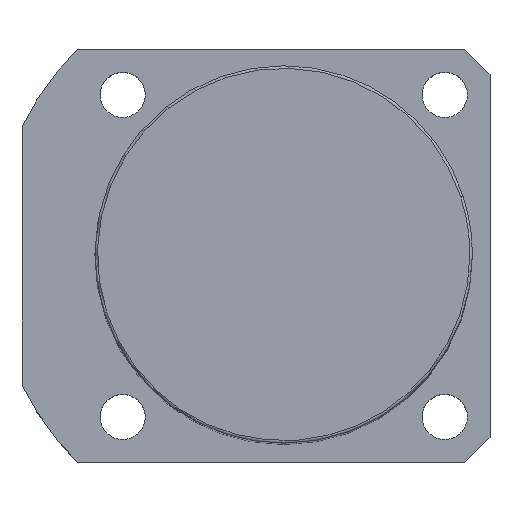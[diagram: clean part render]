
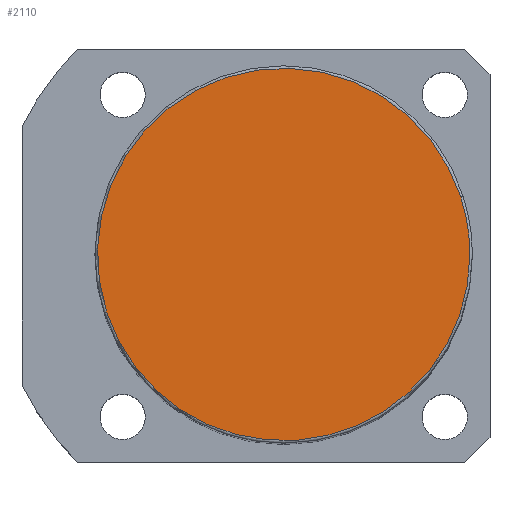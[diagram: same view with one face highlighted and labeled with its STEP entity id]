
A CAD part, top view. The second image highlights one B-rep face of the part: STEP entity #2110.
In plain terms, the highlighted planar face has unit normal (0, 0, 1).
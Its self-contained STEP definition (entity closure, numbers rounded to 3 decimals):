
#2076=CARTESIAN_POINT('',(37.0,0.0,173.0));
#2077=VERTEX_POINT('',#2076);
#2078=CARTESIAN_POINT('',(35.189,11.434,173.0));
#2079=VERTEX_POINT('',#2078);
#2080=CARTESIAN_POINT('',(0.0,0.0,173.0));
#2081=DIRECTION('',(0.0,0.0,1.0));
#2082=DIRECTION('',(1.0,0.0,0.0));
#2083=AXIS2_PLACEMENT_3D('',#2080,#2081,#2082);
#2084=CIRCLE('',#2083,37.0);
#2085=EDGE_CURVE('no 1964',#2077,#2079,#2084,.T.);
#2086=ORIENTED_EDGE('',*,*,#2085,.T.);
#2087=CARTESIAN_POINT('',(-35.189,-11.434,173.0));
#2088=VERTEX_POINT('',#2087);
#2089=CARTESIAN_POINT('',(0.0,0.0,173.0));
#2090=DIRECTION('',(0.0,0.0,1.0));
#2091=DIRECTION('',(1.0,0.0,0.0));
#2092=AXIS2_PLACEMENT_3D('',#2089,#2090,#2091);
#2093=CIRCLE('',#2092,37.0);
#2094=EDGE_CURVE('no 1970',#2079,#2088,#2093,.T.);
#2095=ORIENTED_EDGE('',*,*,#2094,.T.);
#2096=CARTESIAN_POINT('',(0.0,0.0,173.0));
#2097=DIRECTION('',(0.0,0.0,1.0));
#2098=DIRECTION('',(1.0,0.0,0.0));
#2099=AXIS2_PLACEMENT_3D('',#2096,#2097,#2098);
#2100=CIRCLE('',#2099,37.0);
#2101=EDGE_CURVE('no 1974',#2088,#2077,#2100,.T.);
#2102=ORIENTED_EDGE('',*,*,#2101,.T.);
#2103=EDGE_LOOP('',(#2086,#2095,#2102));
#2104=FACE_OUTER_BOUND('',#2103,.T.);
#2105=CARTESIAN_POINT('',(0.0,0.0,173.0));
#2106=DIRECTION('',(0.0,0.0,1.0));
#2107=DIRECTION('',(1.0,0.0,0.0));
#2108=AXIS2_PLACEMENT_3D('',#2105,#2106,#2107);
#2109=PLANE('',#2108);
#2110=ADVANCED_FACE('no 1955',(#2104),#2109,.T.);
